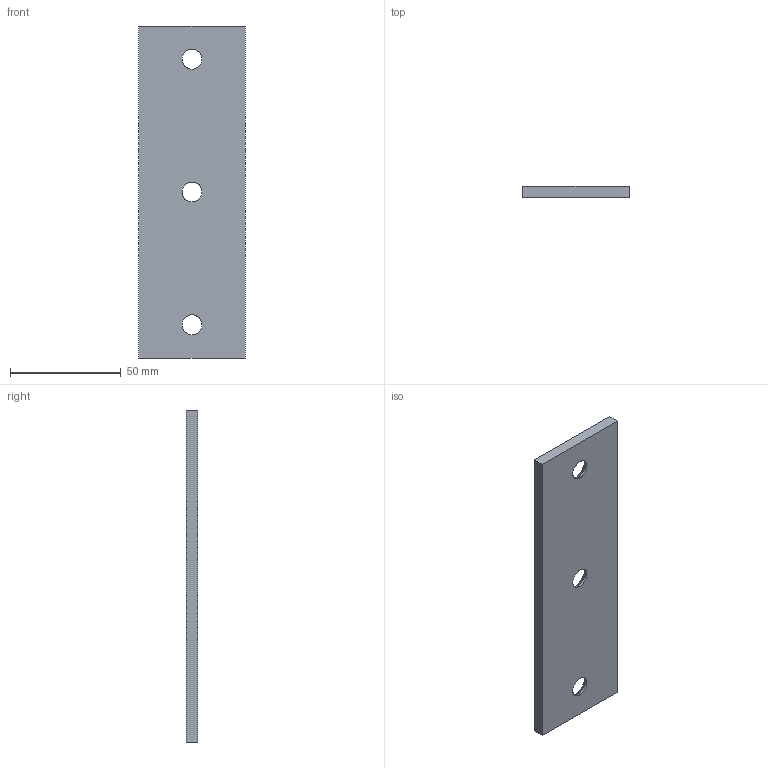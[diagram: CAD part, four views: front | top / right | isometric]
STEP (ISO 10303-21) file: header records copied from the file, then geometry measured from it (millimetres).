
FILE_DESCRIPTION(('CATIA V5 STEP Exchange'),'2;1');
FILE_NAME('C:\Users\Utente\Desktop\3D files A605\A605-048-150.stp','2020-04-13T15:43:48+00:00',('none'),('none'),'CATIA Version 5 Release 20 GA (IN-10)','CATIA V5 STEP AP203','none');
FILE_SCHEMA(('CONFIG_CONTROL_DESIGN'));
Length unit declared in the file: millimetre
Products named in the file (1): Noname
Bounding box: 48 x 5 x 150 mm (x, y, z)
Surface area: 16286.1 mm2 (no closed solid volume)
Topology: 0 solids, 12 shells, 18 faces, 72 edges, 60 vertices
Faces by surface type: extrusion 6, cylinder 6, revolution 6
Entity records: 936 total; most frequent: CARTESIAN_POINT 319, DIRECTION 84, ORIENTED_EDGE 84, EDGE_CURVE 72, VERTEX_POINT 60, VECTOR 42, LINE 36, AXIS2_PLACEMENT_3D 31
